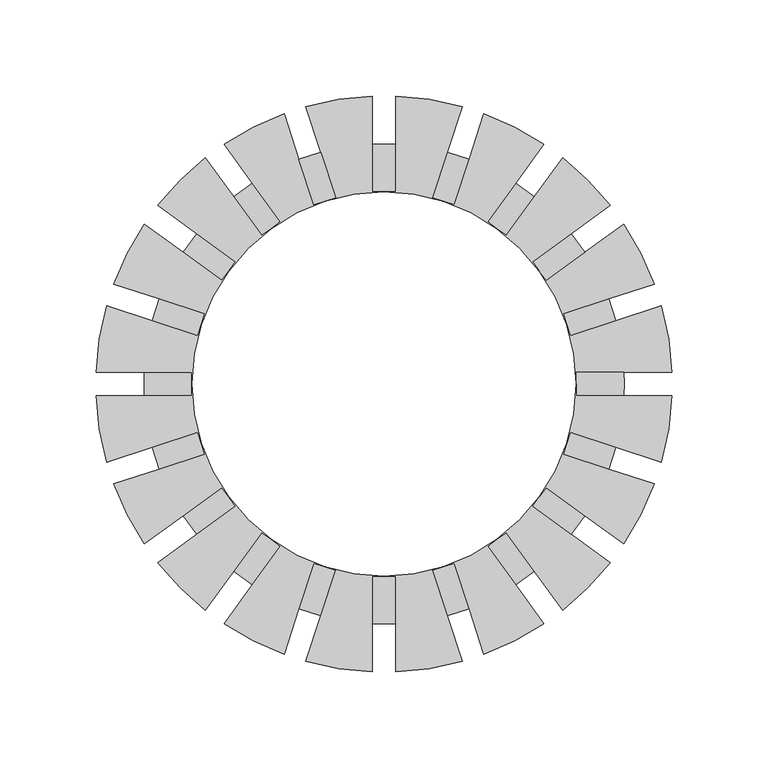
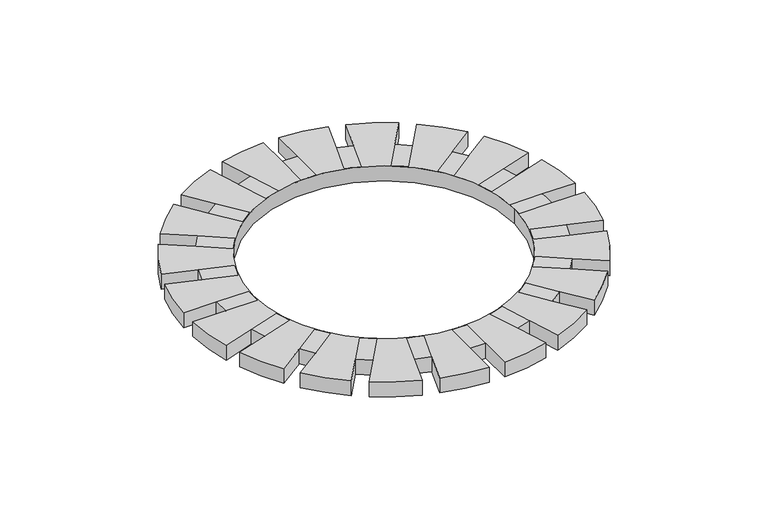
"""IFC4 building model written with IfcOpenShell, lengths in millimetres: proxy geometry, Drizzle 7.3dm."""

from ifc_helpers import new_model, si_unit, frame, origin, place, context, project, spatial, polyline, circle_curve, source, transform, mapped, element, save
from ifc_brep_helpers import plane_surface, cylinder_surface, revolved_surface, advanced_brep


def generic_models_2821e638(model_context):
    return source(origin(), model_context, "Body", "AdvancedBrep", [
        advanced_brep(
        [(18835.1497302, 668.1683381, -60.9371706), (18835.1497302, 668.1683381, -48.9371706), (18840.0442607, 637.2660781, -48.9371706), (18854.2485769, 609.3890612, -48.9371706), (18876.3708377, 587.2669055, -48.9371706), (18904.248158, 573.0626452, -48.9371706), (18935.1497302, 568.1683381, -48.9371706), (18966.0513113, 573.0626481, -48.9371706), (18993.9276166, 587.2661746, -48.9371706), (19016.0513453, 609.3896969, -48.9371706), (19030.2554173, 637.2667481, -48.9371706), (19035.1497302, 668.1683381, -48.9371706), (19035.1497302, 668.1683381, -60.9371706), (19030.2555312, 637.2670984, -60.9371706), (19016.0515856, 609.3900277, -60.9371706), (18993.9276078, 587.2661682, -60.9371706), (18966.0513038, 573.0626456, -60.9371706), (18935.1497302, 568.1683381, -60.9371706), (18904.2481653, 573.0626428, -60.9371706), (18876.3708352, 587.2669073, -60.9371706), (18854.2485802, 609.3890566, -60.9371706), (18840.0442616, 637.2660752, -60.9371706), (18840.0440328, 699.0698969, -60.9371706), (18854.2483311, 726.9472768, -60.9371706), (18876.3703919, 749.0694469, -60.9371706), (18904.2474395, 763.2737977, -60.9371706), (18935.1497302, 768.1683381, -60.9371706), (18966.0510914, 763.2740997, -60.9371706), (18993.9285706, 749.0698085, -60.9371706), (19016.0515821, 726.9466534, -60.9371706), (19030.2555298, 699.0695821, -60.9371706), (19030.2555303, 699.0695804, -48.9371706), (19016.0513457, 726.9469788, -48.9371706), (18993.92833, 749.0699833, -48.9371706), (18966.0512066, 763.2740622, -48.9371706), (18935.1497302, 768.1683381, -48.9371706), (18904.2474395, 763.2737977, -48.9371706), (18876.3703918, 749.0694468, -48.9371706), (18854.2483311, 726.9472769, -48.9371706), (18840.0439257, 699.0695672, -48.9371706), (18866.6153653, 772.7056082, -60.9371706), (18851.9066065, 792.9504778, -60.9371706), (18883.1279399, 808.8585416, -60.9371706), (18890.8607918, 785.05927, -60.9371706), (18898.5416924, 761.4198881, -60.9371706), (18881.2253067, 752.596749, -60.9371706), (18883.1279399, 808.8585416, -48.9371706), (18890.8607918, 785.05927, -48.9371706), (18902.2734701, 788.7674738, -48.9371706), (18902.2734701, 788.7674738, -60.9371706), (18894.5406182, 812.5667454, -60.9371706), (18894.5406182, 812.5667454, -48.9371706), (18851.9066065, 792.9504778, -48.9371706), (18909.9543706, 765.1280919, -60.9371706), (18909.9543706, 765.1280919, -48.9371706), (18898.5416924, 761.4198881, -48.9371706), (18856.9071614, 765.6521852, -48.9371706), (18866.6153653, 772.7056082, -48.9371706), (18856.9071614, 765.6521852, -60.9371706), (19013.3922983, 765.6521856, -60.9371706), (19028.101057, 785.8970553, -60.9371706), (19052.8784467, 761.1196657, -60.9371706), (19032.6335772, 746.4109069, -60.9371706), (19012.524718, 731.8009655, -60.9371706), (18998.782357, 745.5433263, -60.9371706), (18871.5171028, 745.5433259, -60.9371706), (18837.6658827, 746.4109063, -48.9371706), (18857.774742, 731.800965, -48.9371706), (18871.5171028, 745.5433259, -48.9371706), (18842.1984026, 785.8970547, -48.9371706), (18817.421013, 761.119665, -48.9371706), (18881.2253067, 752.596749, -48.9371706), (18817.421013, 761.119665, -60.9371706), (18842.1984026, 785.8970547, -60.9371706), (19052.8784467, 761.1196657, -48.9371706), (19032.6335772, 746.4109069, -48.9371706), (19039.6870002, 736.702703, -48.9371706), (19039.6870002, 736.702703, -60.9371706), (19059.9318698, 751.4114618, -60.9371706), (19059.9318698, 751.4114618, -48.9371706), (19028.101057, 785.8970553, -48.9371706), (18857.774742, 731.800965, -60.9371706), (18837.6658827, 746.4109063, -60.9371706), (19019.578141, 722.0927615, -60.9371706), (19013.3922983, 765.6521856, -48.9371706), (18998.782357, 745.5433263, -48.9371706), (19012.524718, 731.8009655, -48.9371706), (19019.578141, 722.0927615, -48.9371706), (19003.6840944, 772.7056086, -48.9371706), (19003.6840944, 772.7056086, -60.9371706), (18979.438665, 785.0592713, -60.9371706), (18987.1715162, 808.8585431, -60.9371706), (19018.392853, 792.9504783, -60.9371706), (18989.0741531, 752.5967493, -60.9371706), (18971.7577651, 761.4198892, -60.9371706), (18987.1715162, 808.8585431, -48.9371706), (19018.392853, 792.9504783, -48.9371706), (18979.438665, 785.0592713, -48.9371706), (18971.7577651, 761.4198892, -48.9371706), (18989.0741531, 752.5967493, -48.9371706), (18968.0259867, 788.7674748, -48.9371706), (18968.0259867, 788.7674748, -60.9371706), (18941.1497302, 793.0242551, -60.9371706), (18941.1497302, 818.0482901, -60.9371706), (18975.7588378, 812.5667466, -60.9371706), (18960.3450868, 765.1280927, -60.9371706), (18941.1497302, 768.1683381, -60.9371706), (18941.1497302, 818.0482901, -48.9371706), (18975.7588378, 812.5667466, -48.9371706), (18941.1497302, 793.0242551, -48.9371706), (18941.1497302, 768.1683381, -48.9371706), (18960.3450868, 765.1280927, -48.9371706), (18929.1497302, 793.0242551, -48.9371706), (18929.1497302, 793.0242551, -60.9371706), (18929.1497302, 818.0482901, -60.9371706), (18929.1497302, 768.1683381, -60.9371706), (18929.1497302, 818.0482901, -48.9371706), (18929.1497302, 768.1683381, -48.9371706), (18810.36759, 751.411461, -48.9371706), (18830.6124597, 736.7027024, -48.9371706), (18830.6124597, 736.7027024, -60.9371706), (18810.36759, 751.411461, -60.9371706), (18818.258797, 712.457273, -48.9371706), (18841.8981791, 704.7763731, -48.9371706), (18850.721319, 722.092761, -48.9371706), (18794.4595252, 720.1901242, -48.9371706), (18794.4595252, 720.1901242, -60.9371706), (18850.721319, 722.092761, -60.9371706), (18841.8981791, 704.7763731, -60.9371706), (18818.258797, 712.457273, -60.9371706), (19059.9318703, 584.9252153, -48.9371706), (19039.6870006, 599.6339739, -48.9371706), (19039.6870006, 599.6339739, -60.9371706), (19059.9318703, 584.9252153, -60.9371706), (19032.6335777, 589.9257699, -48.9371706), (19032.6335777, 589.9257699, -60.9371706), (19052.8784473, 575.2170113, -48.9371706), (19052.8784473, 575.2170113, -60.9371706), (19052.0406633, 623.8794033, -48.9371706), (19028.4012812, 631.5603031, -48.9371706), (19019.5781413, 614.2439152, -48.9371706), (19075.8399351, 616.1465521, -48.9371706), (19012.5247184, 604.5357113, -48.9371706), (19075.8399351, 616.1465521, -60.9371706), (19019.5781413, 614.2439152, -60.9371706), (19028.4012812, 631.5603031, -60.9371706), (19052.0406633, 623.8794033, -60.9371706), (19012.5247184, 604.5357113, -60.9371706), (19079.5481386, 627.5592305, -48.9371706), (19055.7488668, 635.2920816, -48.9371706), (19055.7488668, 635.2920816, -60.9371706), (19079.5481386, 627.5592305, -60.9371706), (19085.0296821, 662.1683381, -48.9371706), (19060.0056471, 662.1683381, -48.9371706), (19035.1497302, 662.1683381, -48.9371706), (19032.1094847, 642.9729815, -48.9371706), (19085.0296821, 662.1683381, -60.9371706), (19032.1094847, 642.9729815, -60.9371706), (19035.1497302, 662.1683381, -60.9371706), (19060.0056471, 662.1683381, -60.9371706), (19060.1497302, 668.1683381, -60.9371706), (19060.1497302, 668.1683381, -48.9371706), (19085.0296821, 674.1683381, -48.9371706), (19060.0056471, 674.1683381, -48.9371706), (19060.0056471, 674.1683381, -60.9371706), (19085.0296821, 674.1683381, -60.9371706), (19079.5481374, 708.7774501, -60.9371706), (19079.5481374, 708.7774501, -48.9371706), (19035.1497302, 674.1683381, -48.9371706), (19028.4012801, 704.7763759, -48.9371706), (19052.040662, 712.4572765, -48.9371706), (19075.8399336, 720.1901284, -48.9371706), (19035.1497302, 674.1683381, -60.9371706), (19032.109484, 693.3636977, -60.9371706), (19055.7488658, 701.0445982, -60.9371706), (19075.8399336, 720.1901284, -60.9371706), (19052.040662, 712.4572765, -60.9371706), (19055.7488658, 701.0445982, -48.9371706), (19032.109484, 693.3636977, -48.9371706), (19028.4012801, 704.7763759, -60.9371706), (18790.7513217, 708.7774458, -48.9371706), (18814.5505935, 701.0445946, -48.9371706), (18814.5505935, 701.0445946, -60.9371706), (18790.7513217, 708.7774458, -60.9371706), (18810.2938132, 674.1683381, -48.9371706), (18835.1497302, 674.1683381, -48.9371706), (18838.1899756, 693.3636948, -48.9371706), (18785.2697782, 674.1683381, -48.9371706), (18785.2697782, 674.1683381, -60.9371706), (18838.1899756, 693.3636948, -60.9371706), (18835.1497302, 674.1683381, -60.9371706), (18810.2938132, 674.1683381, -60.9371706), (18785.2697782, 662.1683381, -48.9371706), (18810.2938132, 662.1683381, -48.9371706), (18810.2938132, 662.1683381, -60.9371706), (18785.2697782, 662.1683381, -60.9371706), (18814.5505945, 635.292078, -48.9371706), (18838.1899764, 642.9729786, -48.9371706), (18835.1497302, 662.1683381, -48.9371706), (18790.7513229, 627.5592261, -48.9371706), (18790.7513229, 627.5592261, -60.9371706), (18835.1497302, 662.1683381, -60.9371706), (18838.1899764, 642.9729786, -60.9371706), (18814.5505945, 635.292078, -60.9371706), (18794.4595267, 616.1465479, -48.9371706), (18818.2587983, 623.8793998, -48.9371706), (18818.2587983, 623.8793998, -60.9371706), (18794.4595267, 616.1465479, -60.9371706), (18830.6124601, 599.6339733, -48.9371706), (18850.7213193, 614.2439147, -48.9371706), (18841.8981802, 631.5603004, -48.9371706), (18810.3675905, 584.9252145, -48.9371706), (18810.3675905, 584.9252145, -60.9371706), (18841.8981802, 631.5603004, -60.9371706), (18850.7213193, 614.2439147, -60.9371706), (18830.6124601, 599.6339733, -60.9371706), (18817.4210136, 575.2170106, -48.9371706), (18837.6658831, 589.9257693, -48.9371706), (18837.6658831, 589.9257693, -60.9371706), (18817.4210136, 575.2170106, -60.9371706), (18856.907162, 570.6844906, -48.9371706), (18871.5171033, 590.7933499, -48.9371706), (18857.7747423, 604.5357108, -48.9371706), (18842.1984033, 550.439621, -48.9371706), (18842.1984033, 550.439621, -60.9371706), (18857.7747423, 604.5357108, -60.9371706), (18871.5171033, 590.7933499, -60.9371706), (18856.907162, 570.6844906, -60.9371706), (18851.9066073, 543.386198, -48.9371706), (18866.6153659, 563.6310676, -48.9371706), (18866.6153659, 563.6310676, -60.9371706), (18851.9066073, 543.386198, -60.9371706), (18890.8607953, 551.277405, -48.9371706), (18898.5416952, 574.9167871, -48.9371706), (18881.2253073, 583.7399269, -48.9371706), (18883.1279441, 527.4781331, -48.9371706), (18883.1279441, 527.4781331, -60.9371706), (18881.2253073, 583.7399269, -60.9371706), (18898.5416952, 574.9167871, -60.9371706), (18890.8607953, 551.277405, -60.9371706), (18894.5406225, 523.7699296, -48.9371706), (18902.2734737, 547.5692015, -48.9371706), (18902.2734737, 547.5692015, -60.9371706), (18894.5406225, 523.7699296, -60.9371706), (18929.1497302, 543.3124212, -48.9371706), (18929.1497302, 568.1683381, -48.9371706), (18909.9543735, 571.2085836, -48.9371706), (18929.1497302, 518.2883862, -48.9371706), (18929.1497302, 518.2883862, -60.9371706), (18909.9543735, 571.2085836, -60.9371706), (18929.1497302, 568.1683381, -60.9371706), (18929.1497302, 543.3124212, -60.9371706), (18941.1497302, 518.2883862, -48.9371706), (18941.1497302, 543.3124212, -48.9371706), (18941.1497302, 543.3124212, -60.9371706), (18941.1497302, 518.2883862, -60.9371706), (18968.0259903, 547.5692025, -48.9371706), (18960.3450897, 571.2085843, -48.9371706), (18941.1497302, 568.1683381, -48.9371706), (18975.7588422, 523.7699309, -48.9371706), (18975.7588422, 523.7699309, -60.9371706), (18941.1497302, 568.1683381, -60.9371706), (18960.3450897, 571.2085843, -60.9371706), (18968.0259903, 547.5692025, -60.9371706), (18987.1715204, 527.4781347, -48.9371706), (18979.4386685, 551.2774063, -48.9371706), (18979.4386685, 551.2774063, -60.9371706), (18987.1715204, 527.4781347, -60.9371706), (19003.684095, 563.6310681, -48.9371706), (18989.0741536, 583.7399273, -48.9371706), (18971.7577679, 574.9167882, -48.9371706), (19018.3928538, 543.3861985, -48.9371706), (19018.3928538, 543.3861985, -60.9371706), (18971.7577679, 574.9167882, -60.9371706), (18989.0741536, 583.7399273, -60.9371706), (19003.684095, 563.6310681, -60.9371706), (19028.1010577, 550.4396216, -48.9371706), (19013.3922989, 570.6844911, -48.9371706), (19013.3922989, 570.6844911, -60.9371706), (19028.1010577, 550.4396216, -60.9371706), (18998.7823575, 590.7933503, -48.9371706), (18998.7823575, 590.7933503, -60.9371706)],
        [
            (0, 1),
            (1, 2, circle_curve(frame((18935.1497302, 668.1683381, -48.9371706), z_axis=(0.0, 0.0, 1.0), x_axis=(-1.0, 0.0, 0.0)), 100.0)),
            (2, 3, circle_curve(frame((18935.1497302, 668.1683381, -48.9371706), z_axis=(0.0, 0.0, 1.0), x_axis=(-1.0, 0.0, 0.0)), 100.0)),
            (3, 4, circle_curve(frame((18935.1497302, 668.1683381, -48.9371706), z_axis=(0.0, 0.0, 1.0), x_axis=(-1.0, 0.0, 0.0)), 100.0)),
            (4, 5, circle_curve(frame((18935.1497302, 668.1683381, -48.9371706), z_axis=(0.0, 0.0, 1.0), x_axis=(-1.0, 0.0, 0.0)), 100.0)),
            (5, 6, circle_curve(frame((18935.1497302, 668.1683381, -48.9371706), z_axis=(0.0, 0.0, 1.0), x_axis=(-1.0, 0.0, 0.0)), 100.0)),
            (6, 7, circle_curve(frame((18935.1497302, 668.1683381, -48.9371706), z_axis=(0.0, 0.0, 1.0), x_axis=(-1.0, 0.0, 0.0)), 100.0)),
            (7, 8, circle_curve(frame((18935.1497302, 668.1683381, -48.9371706), z_axis=(0.0, 0.0, 1.0), x_axis=(-1.0, 0.0, 0.0)), 100.0)),
            (8, 9, circle_curve(frame((18935.1497302, 668.1683381, -48.9371706), z_axis=(0.0, 0.0, 1.0), x_axis=(-1.0, 0.0, 0.0)), 100.0)),
            (9, 10, circle_curve(frame((18935.1497302, 668.1683381, -48.9371706), z_axis=(0.0, 0.0, 1.0), x_axis=(-1.0, 0.0, 0.0)), 100.0)),
            (10, 11, circle_curve(frame((18935.1497302, 668.1683381, -48.9371706), z_axis=(0.0, 0.0, 1.0), x_axis=(-1.0, 0.0, 0.0)), 100.0)),
            (11, 12),
            (12, 13, circle_curve(frame((18935.1497302, 668.1683381, -60.9371706), z_axis=(0.0, 0.0, -1.0), x_axis=(-1.0, 0.0, 0.0)), 100.0)),
            (13, 14, circle_curve(frame((18935.1497302, 668.1683381, -60.9371706), z_axis=(0.0, 0.0, -1.0), x_axis=(-1.0, 0.0, 0.0)), 100.0)),
            (14, 15, circle_curve(frame((18935.1497302, 668.1683381, -60.9371706), z_axis=(0.0, 0.0, -1.0), x_axis=(-1.0, 0.0, 0.0)), 100.0)),
            (15, 16, circle_curve(frame((18935.1497302, 668.1683381, -60.9371706), z_axis=(0.0, 0.0, -1.0), x_axis=(-1.0, 0.0, 0.0)), 100.0)),
            (16, 17, circle_curve(frame((18935.1497302, 668.1683381, -60.9371706), z_axis=(0.0, 0.0, -1.0), x_axis=(-1.0, 0.0, 0.0)), 100.0)),
            (17, 18, circle_curve(frame((18935.1497302, 668.1683381, -60.9371706), z_axis=(0.0, 0.0, -1.0), x_axis=(-1.0, 0.0, 0.0)), 100.0)),
            (18, 19, circle_curve(frame((18935.1497302, 668.1683381, -60.9371706), z_axis=(0.0, 0.0, -1.0), x_axis=(-1.0, 0.0, 0.0)), 100.0)),
            (19, 20, circle_curve(frame((18935.1497302, 668.1683381, -60.9371706), z_axis=(0.0, 0.0, -1.0), x_axis=(-1.0, 0.0, 0.0)), 100.0)),
            (20, 21, circle_curve(frame((18935.1497302, 668.1683381, -60.9371706), z_axis=(0.0, 0.0, -1.0), x_axis=(-1.0, 0.0, 0.0)), 100.0)),
            (21, 0, circle_curve(frame((18935.1497302, 668.1683381, -60.9371706), z_axis=(0.0, 0.0, -1.0), x_axis=(-1.0, 0.0, 0.0)), 100.0)),
            (0, 22, circle_curve(frame((18935.1497302, 668.1683381, -60.9371706), z_axis=(0.0, 0.0, -1.0), x_axis=(-1.0, 0.0, 0.0)), 100.0)),
            (22, 23, circle_curve(frame((18935.1497302, 668.1683381, -60.9371706), z_axis=(0.0, 0.0, -1.0), x_axis=(-1.0, 0.0, 0.0)), 100.0)),
            (23, 24, circle_curve(frame((18935.1497302, 668.1683381, -60.9371706), z_axis=(0.0, 0.0, -1.0), x_axis=(-1.0, 0.0, 0.0)), 100.0)),
            (24, 25, circle_curve(frame((18935.1497302, 668.1683381, -60.9371706), z_axis=(0.0, 0.0, -1.0), x_axis=(-1.0, 0.0, 0.0)), 100.0)),
            (25, 26, circle_curve(frame((18935.1497302, 668.1683381, -60.9371706), z_axis=(0.0, 0.0, -1.0), x_axis=(-1.0, 0.0, 0.0)), 100.0)),
            (26, 27, circle_curve(frame((18935.1497302, 668.1683381, -60.9371706), z_axis=(0.0, 0.0, -1.0), x_axis=(-1.0, 0.0, 0.0)), 100.0)),
            (27, 28, circle_curve(frame((18935.1497302, 668.1683381, -60.9371706), z_axis=(0.0, 0.0, -1.0), x_axis=(-1.0, 0.0, 0.0)), 100.0)),
            (28, 29, circle_curve(frame((18935.1497302, 668.1683381, -60.9371706), z_axis=(0.0, 0.0, -1.0), x_axis=(-1.0, 0.0, 0.0)), 100.0)),
            (29, 30, circle_curve(frame((18935.1497302, 668.1683381, -60.9371706), z_axis=(0.0, 0.0, -1.0), x_axis=(-1.0, 0.0, 0.0)), 100.0)),
            (30, 12, circle_curve(frame((18935.1497302, 668.1683381, -60.9371706), z_axis=(0.0, 0.0, -1.0), x_axis=(-1.0, 0.0, 0.0)), 100.0)),
            (11, 31, circle_curve(frame((18935.1497302, 668.1683381, -48.9371706), z_axis=(0.0, 0.0, 1.0), x_axis=(-1.0, 0.0, 0.0)), 100.0)),
            (31, 32, circle_curve(frame((18935.1497302, 668.1683381, -48.9371706), z_axis=(0.0, 0.0, 1.0), x_axis=(-1.0, 0.0, 0.0)), 100.0)),
            (32, 33, circle_curve(frame((18935.1497302, 668.1683381, -48.9371706), z_axis=(0.0, 0.0, 1.0), x_axis=(-1.0, 0.0, 0.0)), 100.0)),
            (33, 34, circle_curve(frame((18935.1497302, 668.1683381, -48.9371706), z_axis=(0.0, 0.0, 1.0), x_axis=(-1.0, 0.0, 0.0)), 100.0)),
            (34, 35, circle_curve(frame((18935.1497302, 668.1683381, -48.9371706), z_axis=(0.0, 0.0, 1.0), x_axis=(-1.0, 0.0, 0.0)), 100.0)),
            (35, 36, circle_curve(frame((18935.1497302, 668.1683381, -48.9371706), z_axis=(0.0, 0.0, 1.0), x_axis=(-1.0, 0.0, 0.0)), 100.0)),
            (36, 37, circle_curve(frame((18935.1497302, 668.1683381, -48.9371706), z_axis=(0.0, 0.0, 1.0), x_axis=(-1.0, 0.0, 0.0)), 100.0)),
            (37, 38, circle_curve(frame((18935.1497302, 668.1683381, -48.9371706), z_axis=(0.0, 0.0, 1.0), x_axis=(-1.0, 0.0, 0.0)), 100.0)),
            (38, 39, circle_curve(frame((18935.1497302, 668.1683381, -48.9371706), z_axis=(0.0, 0.0, 1.0), x_axis=(-1.0, 0.0, 0.0)), 100.0)),
            (39, 1, circle_curve(frame((18935.1497302, 668.1683381, -48.9371706), z_axis=(0.0, 0.0, 1.0), x_axis=(-1.0, 0.0, 0.0)), 100.0)),
            (40, 41),
            (41, 42, circle_curve(frame((18935.1497302, 668.1683381, -60.9371706), z_axis=(0.0, 0.0, -1.0), x_axis=(-1.0, 0.0, 0.0)), 150.0)),
            (42, 43),
            (43, 44),
            (44, 25),
            (24, 45),
            (45, 40),
            (42, 46),
            (46, 47),
            (47, 43),
            (47, 48, circle_curve(frame((18935.1497302, 668.1683381, -48.9371706), z_axis=(0.0, 0.0, -1.0), x_axis=(-1.0, 0.0, 0.0)), 125.0)),
            (48, 49),
            (49, 43, circle_curve(frame((18935.1497302, 668.1683381, -60.9371706), z_axis=(0.0, 0.0, 1.0), x_axis=(-1.0, 0.0, 0.0)), 125.0)),
            (50, 49),
            (48, 51),
            (51, 50),
            (41, 52),
            (52, 46, circle_curve(frame((18935.1497302, 668.1683381, -48.9371706), z_axis=(0.0, 0.0, -1.0), x_axis=(-1.0, 0.0, 0.0)), 150.0)),
            (49, 53),
            (53, 25),
            (54, 48),
            (47, 55),
            (55, 36),
            (36, 54),
            (56, 57, circle_curve(frame((18935.1497302, 668.1683381, -48.9371706), z_axis=(0.0, 0.0, -1.0), x_axis=(-1.0, 0.0, 0.0)), 125.0)),
            (57, 40),
            (40, 58, circle_curve(frame((18935.1497302, 668.1683381, -60.9371706), z_axis=(0.0, 0.0, 1.0), x_axis=(-1.0, 0.0, 0.0)), 125.0)),
            (58, 56),
            (59, 60),
            (60, 61, circle_curve(frame((18935.1497302, 668.1683381, -60.9371706), z_axis=(0.0, 0.0, -1.0), x_axis=(-1.0, 0.0, 0.0)), 150.0)),
            (61, 62),
            (62, 63),
            (63, 29),
            (28, 64),
            (64, 59),
            (24, 65),
            (65, 58),
            (66, 67),
            (67, 38),
            (37, 68),
            (68, 56),
            (56, 69),
            (69, 70, circle_curve(frame((18935.1497302, 668.1683381, -48.9371706), z_axis=(0.0, 0.0, 1.0), x_axis=(-1.0, 0.0, 0.0)), 150.0)),
            (70, 66),
            (71, 37),
            (52, 57),
            (57, 71),
            (72, 70),
            (69, 73),
            (73, 72, circle_curve(frame((18935.1497302, 668.1683381, -60.9371706), z_axis=(0.0, 0.0, 1.0), x_axis=(-1.0, 0.0, 0.0)), 150.0)),
            (58, 73),
            (61, 74),
            (74, 75),
            (75, 62),
            (75, 76, circle_curve(frame((18935.1497302, 668.1683381, -48.9371706), z_axis=(0.0, 0.0, -1.0), x_axis=(-1.0, 0.0, 0.0)), 125.0)),
            (76, 77),
            (77, 62, circle_curve(frame((18935.1497302, 668.1683381, -60.9371706), z_axis=(0.0, 0.0, 1.0), x_axis=(-1.0, 0.0, 0.0)), 125.0)),
            (78, 77),
            (76, 79),
            (79, 78),
            (60, 80),
            (80, 74, circle_curve(frame((18935.1497302, 668.1683381, -48.9371706), z_axis=(0.0, 0.0, -1.0), x_axis=(-1.0, 0.0, 0.0)), 150.0)),
            (23, 81),
            (81, 82),
            (82, 72),
            (77, 83),
            (83, 29),
            (80, 84),
            (84, 85),
            (85, 33),
            (32, 86),
            (86, 75),
            (87, 76),
            (32, 87),
            (88, 84, circle_curve(frame((18935.1497302, 668.1683381, -48.9371706), z_axis=(0.0, 0.0, -1.0), x_axis=(-1.0, 0.0, 0.0)), 125.0)),
            (84, 59),
            (59, 89, circle_curve(frame((18935.1497302, 668.1683381, -60.9371706), z_axis=(0.0, 0.0, 1.0), x_axis=(-1.0, 0.0, 0.0)), 125.0)),
            (89, 88),
            (90, 91),
            (91, 92, circle_curve(frame((18935.1497302, 668.1683381, -60.9371706), z_axis=(0.0, 0.0, -1.0), x_axis=(-1.0, 0.0, 0.0)), 150.0)),
            (92, 89),
            (89, 93),
            (93, 28),
            (27, 94),
            (94, 90),
            (91, 95),
            (95, 96, circle_curve(frame((18935.1497302, 668.1683381, -48.9371706), z_axis=(0.0, 0.0, -1.0), x_axis=(-1.0, 0.0, 0.0)), 150.0)),
            (96, 92),
            (95, 97),
            (97, 98),
            (98, 34),
            (33, 99),
            (99, 88),
            (88, 96),
            (100, 97, circle_curve(frame((18935.1497302, 668.1683381, -48.9371706), z_axis=(0.0, 0.0, -1.0), x_axis=(-1.0, 0.0, 0.0)), 125.0)),
            (97, 90),
            (90, 101, circle_curve(frame((18935.1497302, 668.1683381, -60.9371706), z_axis=(0.0, 0.0, 1.0), x_axis=(-1.0, 0.0, 0.0)), 125.0)),
            (101, 100),
            (102, 103),
            (103, 104, circle_curve(frame((18935.1497302, 668.1683381, -60.9371706), z_axis=(0.0, 0.0, -1.0), x_axis=(-1.0, 0.0, 0.0)), 150.0)),
            (104, 101),
            (101, 105),
            (105, 27),
            (26, 106),
            (106, 102),
            (103, 107),
            (107, 108, circle_curve(frame((18935.1497302, 668.1683381, -48.9371706), z_axis=(0.0, 0.0, -1.0), x_axis=(-1.0, 0.0, 0.0)), 150.0)),
            (108, 104),
            (107, 109),
            (109, 110),
            (110, 35),
            (34, 111),
            (111, 100),
            (100, 108),
            (112, 109, circle_curve(frame((18935.1497302, 668.1683381, -48.9371706), z_axis=(0.0, 0.0, -1.0), x_axis=(-1.0, 0.0, 0.0)), 125.0)),
            (109, 102),
            (102, 113, circle_curve(frame((18935.1497302, 668.1683381, -60.9371706), z_axis=(0.0, 0.0, 1.0), x_axis=(-1.0, 0.0, 0.0)), 125.0)),
            (113, 112),
            (50, 114, circle_curve(frame((18935.1497302, 668.1683381, -60.9371706), z_axis=(0.0, 0.0, -1.0), x_axis=(-1.0, 0.0, 0.0)), 150.0)),
            (114, 113),
            (113, 115),
            (115, 26),
            (51, 116, circle_curve(frame((18935.1497302, 668.1683381, -48.9371706), z_axis=(0.0, 0.0, -1.0), x_axis=(-1.0, 0.0, 0.0)), 150.0)),
            (116, 114),
            (35, 117),
            (117, 112),
            (112, 116),
            (118, 119),
            (119, 120),
            (120, 121),
            (121, 118),
            (119, 66, circle_curve(frame((18935.1497302, 668.1683381, -48.9371706), z_axis=(0.0, 0.0, -1.0), x_axis=(-1.0, 0.0, 0.0)), 125.0)),
            (66, 82),
            (82, 120, circle_curve(frame((18935.1497302, 668.1683381, -60.9371706), z_axis=(0.0, 0.0, 1.0), x_axis=(-1.0, 0.0, 0.0)), 125.0)),
            (122, 123),
            (123, 39),
            (38, 124),
            (124, 119),
            (118, 125, circle_curve(frame((18935.1497302, 668.1683381, -48.9371706), z_axis=(0.0, 0.0, 1.0), x_axis=(-1.0, 0.0, 0.0)), 150.0)),
            (125, 122),
            (126, 125),
            (121, 126, circle_curve(frame((18935.1497302, 668.1683381, -60.9371706), z_axis=(0.0, 0.0, 1.0), x_axis=(-1.0, 0.0, 0.0)), 150.0)),
            (120, 127),
            (127, 23),
            (22, 128),
            (128, 129),
            (129, 126),
            (130, 131),
            (131, 132),
            (132, 133),
            (133, 130),
            (131, 134, circle_curve(frame((18935.1497302, 668.1683381, -48.9371706), z_axis=(0.0, 0.0, -1.0), x_axis=(-1.0, 0.0, 0.0)), 125.0)),
            (134, 135),
            (135, 132, circle_curve(frame((18935.1497302, 668.1683381, -60.9371706), z_axis=(0.0, 0.0, 1.0), x_axis=(-1.0, 0.0, 0.0)), 125.0)),
            (136, 137),
            (137, 135),
            (134, 136),
            (138, 139),
            (139, 10),
            (9, 140),
            (140, 131),
            (130, 141, circle_curve(frame((18935.1497302, 668.1683381, -48.9371706), z_axis=(0.0, 0.0, 1.0), x_axis=(-1.0, 0.0, 0.0)), 150.0)),
            (141, 138),
            (9, 142),
            (142, 134),
            (143, 141),
            (133, 143, circle_curve(frame((18935.1497302, 668.1683381, -60.9371706), z_axis=(0.0, 0.0, 1.0), x_axis=(-1.0, 0.0, 0.0)), 150.0)),
            (132, 144),
            (144, 14),
            (13, 145),
            (145, 146),
            (146, 143),
            (147, 14),
            (135, 147),
            (148, 149),
            (149, 150),
            (150, 151),
            (151, 148),
            (149, 138, circle_curve(frame((18935.1497302, 668.1683381, -48.9371706), z_axis=(0.0, 0.0, -1.0), x_axis=(-1.0, 0.0, 0.0)), 125.0)),
            (138, 146),
            (146, 150, circle_curve(frame((18935.1497302, 668.1683381, -60.9371706), z_axis=(0.0, 0.0, 1.0), x_axis=(-1.0, 0.0, 0.0)), 125.0)),
            (152, 153),
            (153, 154),
            (154, 11),
            (10, 155),
            (155, 149),
            (148, 152, circle_curve(frame((18935.1497302, 668.1683381, -48.9371706), z_axis=(0.0, 0.0, 1.0), x_axis=(-1.0, 0.0, 0.0)), 150.0)),
            (156, 152),
            (151, 156, circle_curve(frame((18935.1497302, 668.1683381, -60.9371706), z_axis=(0.0, 0.0, 1.0), x_axis=(-1.0, 0.0, 0.0)), 150.0)),
            (150, 157),
            (157, 13),
            (12, 158),
            (158, 159),
            (159, 156),
            (153, 159),
            (159, 160, circle_curve(frame((18935.1497302, 668.1683381, -60.9371706), z_axis=(0.0, 0.0, 1.0), x_axis=(-1.0, 0.0, 0.0)), 125.0)),
            (160, 161),
            (161, 153, circle_curve(frame((18935.1497302, 668.1683381, -48.9371706), z_axis=(0.0, 0.0, -1.0), x_axis=(-1.0, 0.0, 0.0)), 125.0)),
            (162, 163),
            (163, 164),
            (164, 165),
            (165, 162),
            (163, 161, circle_curve(frame((18935.1497302, 668.1683381, -48.9371706), z_axis=(0.0, 0.0, -1.0), x_axis=(-1.0, 0.0, 0.0)), 125.0)),
            (160, 164, circle_curve(frame((18935.1497302, 668.1683381, -60.9371706), z_axis=(0.0, 0.0, 1.0), x_axis=(-1.0, 0.0, 0.0)), 125.0)),
            (166, 167),
            (167, 162, circle_curve(frame((18935.1497302, 668.1683381, -48.9371706), z_axis=(0.0, 0.0, -1.0), x_axis=(-1.0, 0.0, 0.0)), 150.0)),
            (165, 166, circle_curve(frame((18935.1497302, 668.1683381, -60.9371706), z_axis=(0.0, 0.0, 1.0), x_axis=(-1.0, 0.0, 0.0)), 150.0)),
            (163, 168),
            (168, 11),
            (31, 169),
            (169, 170),
            (170, 171),
            (171, 79, circle_curve(frame((18935.1497302, 668.1683381, -48.9371706), z_axis=(0.0, 0.0, 1.0), x_axis=(-1.0, 0.0, 0.0)), 150.0)),
            (164, 172),
            (172, 12),
            (30, 173),
            (173, 174),
            (174, 166),
            (175, 171),
            (170, 176),
            (176, 175),
            (170, 177, circle_curve(frame((18935.1497302, 668.1683381, -48.9371706), z_axis=(0.0, 0.0, -1.0), x_axis=(-1.0, 0.0, 0.0)), 125.0)),
            (177, 174),
            (174, 176, circle_curve(frame((18935.1497302, 668.1683381, -60.9371706), z_axis=(0.0, 0.0, 1.0), x_axis=(-1.0, 0.0, 0.0)), 125.0)),
            (177, 167),
            (175, 78, circle_curve(frame((18935.1497302, 668.1683381, -60.9371706), z_axis=(0.0, 0.0, 1.0), x_axis=(-1.0, 0.0, 0.0)), 150.0)),
            (177, 178),
            (178, 31),
            (176, 179),
            (179, 30),
            (180, 181),
            (181, 182),
            (182, 183),
            (183, 180),
            (181, 122, circle_curve(frame((18935.1497302, 668.1683381, -48.9371706), z_axis=(0.0, 0.0, -1.0), x_axis=(-1.0, 0.0, 0.0)), 125.0)),
            (122, 129),
            (129, 182, circle_curve(frame((18935.1497302, 668.1683381, -60.9371706), z_axis=(0.0, 0.0, 1.0), x_axis=(-1.0, 0.0, 0.0)), 125.0)),
            (184, 185),
            (185, 1),
            (39, 186),
            (186, 181),
            (180, 187, circle_curve(frame((18935.1497302, 668.1683381, -48.9371706), z_axis=(0.0, 0.0, 1.0), x_axis=(-1.0, 0.0, 0.0)), 150.0)),
            (187, 184),
            (188, 187),
            (183, 188, circle_curve(frame((18935.1497302, 668.1683381, -60.9371706), z_axis=(0.0, 0.0, 1.0), x_axis=(-1.0, 0.0, 0.0)), 150.0)),
            (182, 189),
            (189, 22),
            (0, 190),
            (190, 191),
            (191, 188),
            (192, 193),
            (193, 194),
            (194, 195),
            (195, 192),
            (193, 184, circle_curve(frame((18935.1497302, 668.1683381, -48.9371706), z_axis=(0.0, 0.0, -1.0), x_axis=(-1.0, 0.0, 0.0)), 125.0)),
            (184, 191),
            (191, 194, circle_curve(frame((18935.1497302, 668.1683381, -60.9371706), z_axis=(0.0, 0.0, 1.0), x_axis=(-1.0, 0.0, 0.0)), 125.0)),
            (196, 197),
            (197, 2),
            (1, 198),
            (198, 193),
            (192, 199, circle_curve(frame((18935.1497302, 668.1683381, -48.9371706), z_axis=(0.0, 0.0, 1.0), x_axis=(-1.0, 0.0, 0.0)), 150.0)),
            (199, 196),
            (200, 199),
            (195, 200, circle_curve(frame((18935.1497302, 668.1683381, -60.9371706), z_axis=(0.0, 0.0, 1.0), x_axis=(-1.0, 0.0, 0.0)), 150.0)),
            (194, 201),
            (201, 0),
            (21, 202),
            (202, 203),
            (203, 200),
            (204, 205),
            (205, 206),
            (206, 207),
            (207, 204),
            (205, 196, circle_curve(frame((18935.1497302, 668.1683381, -48.9371706), z_axis=(0.0, 0.0, -1.0), x_axis=(-1.0, 0.0, 0.0)), 125.0)),
            (196, 203),
            (203, 206, circle_curve(frame((18935.1497302, 668.1683381, -60.9371706), z_axis=(0.0, 0.0, 1.0), x_axis=(-1.0, 0.0, 0.0)), 125.0)),
            (208, 209),
            (209, 3),
            (2, 210),
            (210, 205),
            (204, 211, circle_curve(frame((18935.1497302, 668.1683381, -48.9371706), z_axis=(0.0, 0.0, 1.0), x_axis=(-1.0, 0.0, 0.0)), 150.0)),
            (211, 208),
            (212, 211),
            (207, 212, circle_curve(frame((18935.1497302, 668.1683381, -60.9371706), z_axis=(0.0, 0.0, 1.0), x_axis=(-1.0, 0.0, 0.0)), 150.0)),
            (206, 213),
            (213, 21),
            (20, 214),
            (214, 215),
            (215, 212),
            (216, 217),
            (217, 218),
            (218, 219),
            (219, 216),
            (217, 208, circle_curve(frame((18935.1497302, 668.1683381, -48.9371706), z_axis=(0.0, 0.0, -1.0), x_axis=(-1.0, 0.0, 0.0)), 125.0)),
            (208, 215),
            (215, 218, circle_curve(frame((18935.1497302, 668.1683381, -60.9371706), z_axis=(0.0, 0.0, 1.0), x_axis=(-1.0, 0.0, 0.0)), 125.0)),
            (220, 221),
            (221, 4),
            (3, 222),
            (222, 217),
            (216, 223, circle_curve(frame((18935.1497302, 668.1683381, -48.9371706), z_axis=(0.0, 0.0, 1.0), x_axis=(-1.0, 0.0, 0.0)), 150.0)),
            (223, 220),
            (224, 223),
            (219, 224, circle_curve(frame((18935.1497302, 668.1683381, -60.9371706), z_axis=(0.0, 0.0, 1.0), x_axis=(-1.0, 0.0, 0.0)), 150.0)),
            (218, 225),
            (225, 20),
            (19, 226),
            (226, 227),
            (227, 224),
            (228, 229),
            (229, 230),
            (230, 231),
            (231, 228),
            (229, 220, circle_curve(frame((18935.1497302, 668.1683381, -48.9371706), z_axis=(0.0, 0.0, -1.0), x_axis=(-1.0, 0.0, 0.0)), 125.0)),
            (220, 227),
            (227, 230, circle_curve(frame((18935.1497302, 668.1683381, -60.9371706), z_axis=(0.0, 0.0, 1.0), x_axis=(-1.0, 0.0, 0.0)), 125.0)),
            (232, 233),
            (233, 5),
            (4, 234),
            (234, 229),
            (228, 235, circle_curve(frame((18935.1497302, 668.1683381, -48.9371706), z_axis=(0.0, 0.0, 1.0), x_axis=(-1.0, 0.0, 0.0)), 150.0)),
            (235, 232),
            (236, 235),
            (231, 236, circle_curve(frame((18935.1497302, 668.1683381, -60.9371706), z_axis=(0.0, 0.0, 1.0), x_axis=(-1.0, 0.0, 0.0)), 150.0)),
            (230, 237),
            (237, 19),
            (18, 238),
            (238, 239),
            (239, 236),
            (240, 241),
            (241, 242),
            (242, 243),
            (243, 240),
            (241, 232, circle_curve(frame((18935.1497302, 668.1683381, -48.9371706), z_axis=(0.0, 0.0, -1.0), x_axis=(-1.0, 0.0, 0.0)), 125.0)),
            (232, 239),
            (239, 242, circle_curve(frame((18935.1497302, 668.1683381, -60.9371706), z_axis=(0.0, 0.0, 1.0), x_axis=(-1.0, 0.0, 0.0)), 125.0)),
            (244, 245),
            (245, 6),
            (5, 246),
            (246, 241),
            (240, 247, circle_curve(frame((18935.1497302, 668.1683381, -48.9371706), z_axis=(0.0, 0.0, 1.0), x_axis=(-1.0, 0.0, 0.0)), 150.0)),
            (247, 244),
            (248, 247),
            (243, 248, circle_curve(frame((18935.1497302, 668.1683381, -60.9371706), z_axis=(0.0, 0.0, 1.0), x_axis=(-1.0, 0.0, 0.0)), 150.0)),
            (242, 249),
            (249, 18),
            (17, 250),
            (250, 251),
            (251, 248),
            (252, 253),
            (253, 254),
            (254, 255),
            (255, 252),
            (253, 244, circle_curve(frame((18935.1497302, 668.1683381, -48.9371706), z_axis=(0.0, 0.0, -1.0), x_axis=(-1.0, 0.0, 0.0)), 125.0)),
            (244, 251),
            (251, 254, circle_curve(frame((18935.1497302, 668.1683381, -60.9371706), z_axis=(0.0, 0.0, 1.0), x_axis=(-1.0, 0.0, 0.0)), 125.0)),
            (256, 257),
            (257, 7),
            (6, 258),
            (258, 253),
            (252, 259, circle_curve(frame((18935.1497302, 668.1683381, -48.9371706), z_axis=(0.0, 0.0, 1.0), x_axis=(-1.0, 0.0, 0.0)), 150.0)),
            (259, 256),
            (260, 259),
            (255, 260, circle_curve(frame((18935.1497302, 668.1683381, -60.9371706), z_axis=(0.0, 0.0, 1.0), x_axis=(-1.0, 0.0, 0.0)), 150.0)),
            (254, 261),
            (261, 17),
            (16, 262),
            (262, 263),
            (263, 260),
            (264, 265),
            (265, 266),
            (266, 267),
            (267, 264),
            (265, 256, circle_curve(frame((18935.1497302, 668.1683381, -48.9371706), z_axis=(0.0, 0.0, -1.0), x_axis=(-1.0, 0.0, 0.0)), 125.0)),
            (256, 263),
            (263, 266, circle_curve(frame((18935.1497302, 668.1683381, -60.9371706), z_axis=(0.0, 0.0, 1.0), x_axis=(-1.0, 0.0, 0.0)), 125.0)),
            (268, 269),
            (269, 8),
            (7, 270),
            (270, 265),
            (264, 271, circle_curve(frame((18935.1497302, 668.1683381, -48.9371706), z_axis=(0.0, 0.0, 1.0), x_axis=(-1.0, 0.0, 0.0)), 150.0)),
            (271, 268),
            (272, 271),
            (267, 272, circle_curve(frame((18935.1497302, 668.1683381, -60.9371706), z_axis=(0.0, 0.0, 1.0), x_axis=(-1.0, 0.0, 0.0)), 150.0)),
            (266, 273),
            (273, 16),
            (15, 274),
            (274, 275),
            (275, 272),
            (276, 277),
            (277, 278),
            (278, 279),
            (279, 276),
            (277, 268, circle_curve(frame((18935.1497302, 668.1683381, -48.9371706), z_axis=(0.0, 0.0, -1.0), x_axis=(-1.0, 0.0, 0.0)), 125.0)),
            (268, 275),
            (275, 278, circle_curve(frame((18935.1497302, 668.1683381, -60.9371706), z_axis=(0.0, 0.0, 1.0), x_axis=(-1.0, 0.0, 0.0)), 125.0)),
            (8, 280),
            (280, 277),
            (276, 136, circle_curve(frame((18935.1497302, 668.1683381, -48.9371706), z_axis=(0.0, 0.0, 1.0), x_axis=(-1.0, 0.0, 0.0)), 150.0)),
            (279, 137, circle_curve(frame((18935.1497302, 668.1683381, -60.9371706), z_axis=(0.0, 0.0, 1.0), x_axis=(-1.0, 0.0, 0.0)), 150.0)),
            (278, 281),
            (281, 15),
        ],
        [
            revolved_surface(polyline([(18835.1497302, 668.1683381, -48.9371706), (18835.1497302, 668.1683381, -60.9371706)]), (18935.1497302, 668.1683381, -60.9371706), (0.0, 0.0, 1.0)),
            plane_surface(frame((19535.1497302, 668.1683381, -60.9371706), z_axis=(0.0, 0.0, -1.0), x_axis=(-1.0, 0.0, 0.0))),
            plane_surface(frame((18898.5416924, 761.4198881, -108.9371706), z_axis=(0.9510565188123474, 0.3090169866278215, 0.0), x_axis=(0.0, 0.0, -1.0))),
            cylinder_surface(frame((18935.1497302, 668.1683381, -48.9371706), z_axis=(0.0, 0.0, 1.0), x_axis=(-1.0, 0.0, 0.0)), 125.0),
            plane_surface(frame((18909.9543706, 765.1280919, -108.9371706), z_axis=(-0.9510565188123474, -0.3090169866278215, 0.0), x_axis=(0.0, 0.0, 1.0))),
            cylinder_surface(frame((18935.1497302, 668.1683381, -60.9371706), z_axis=(0.0, 0.0, -1.0), x_axis=(-1.0, 0.0, 0.0)), 150.0),
            plane_surface(frame((19535.1497302, 668.1683381, -48.9371706), z_axis=(0.0, 0.0, 1.0), x_axis=(1.0, 0.0, 0.0))),
            plane_surface(frame((18871.5171028, 745.5433259, -108.9371706), z_axis=(0.8090169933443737, 0.5877852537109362, 0.0), x_axis=(0.0, 0.0, -1.0))),
            plane_surface(frame((18881.2253067, 752.596749, -108.9371706), z_axis=(-0.8090169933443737, -0.5877852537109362, 0.0), x_axis=(0.0, 0.0, 1.0))),
            plane_surface(frame((19012.524718, 731.8009655, -108.9371706), z_axis=(0.5877852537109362, -0.8090169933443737, 0.0), x_axis=(0.0, 0.0, -1.0))),
            plane_surface(frame((19019.578141, 722.0927615, -108.9371706), z_axis=(-0.5877852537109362, 0.8090169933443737, 0.0), x_axis=(0.0, 0.0, 1.0))),
            plane_surface(frame((18989.0741531, 752.5967493, -108.9371706), z_axis=(0.8090169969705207, -0.5877852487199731, 0.0), x_axis=(0.0, 0.0, -1.0))),
            plane_surface(frame((18998.782357, 745.5433263, -108.9371706), z_axis=(-0.8090169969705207, 0.5877852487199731, 0.0), x_axis=(0.0, 0.0, 1.0))),
            plane_surface(frame((18960.3450868, 765.1280927, -108.9371706), z_axis=(0.9510565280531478, -0.3090169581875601, 0.0), x_axis=(0.0, 0.0, -1.0))),
            plane_surface(frame((18971.7577651, 761.4198892, -108.9371706), z_axis=(-0.9510565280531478, 0.3090169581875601, 0.0), x_axis=(0.0, 0.0, 1.0))),
            plane_surface(frame((18929.1497302, 768.1683381, -108.9371706), z_axis=(1.0, 0.0, 0.0), x_axis=(0.0, 0.0, -1.0))),
            plane_surface(frame((18941.1497302, 768.1683381, -108.9371706), z_axis=(-1.0, 0.0, 0.0), x_axis=(0.0, 0.0, 1.0))),
            plane_surface(frame((18850.721319, 722.092761, -108.9371706), z_axis=(0.5877852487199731, 0.8090169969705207, 0.0), x_axis=(0.0, 0.0, -1.0))),
            plane_surface(frame((18857.774742, 731.800965, -108.9371706), z_axis=(-0.5877852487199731, -0.8090169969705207, 0.0), x_axis=(0.0, 0.0, 1.0))),
            plane_surface(frame((19019.5781413, 614.2439152, -108.9371706), z_axis=(-0.5877852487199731, -0.8090169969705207, 0.0), x_axis=(0.0, 0.0, 1.0))),
            plane_surface(frame((19012.5247184, 604.5357113, -108.9371706), z_axis=(0.5877852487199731, 0.8090169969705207, 0.0), x_axis=(0.0, 0.0, -1.0))),
            plane_surface(frame((19032.1094847, 642.9729815, -108.9371706), z_axis=(-0.3090169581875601, -0.9510565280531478, 0.0), x_axis=(0.0, 0.0, -1.0))),
            plane_surface(frame((19028.4012812, 631.5603031, -108.9371706), z_axis=(0.3090169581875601, 0.9510565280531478, 0.0), x_axis=(0.0, 0.0, 1.0))),
            plane_surface(frame((19035.1497302, 674.1683381, -108.9371706), z_axis=(0.0, -1.0, 0.0), x_axis=(0.0, 0.0, -1.0))),
            plane_surface(frame((19035.1497302, 662.1683381, -108.9371706), z_axis=(0.0, 1.0, 0.0), x_axis=(0.0, 0.0, 1.0))),
            plane_surface(frame((19028.4012801, 704.7763759, -108.9371706), z_axis=(0.3090169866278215, -0.9510565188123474, 0.0), x_axis=(0.0, 0.0, -1.0))),
            plane_surface(frame((19032.109484, 693.3636977, -108.9371706), z_axis=(-0.3090169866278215, 0.9510565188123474, 0.0), x_axis=(0.0, 0.0, 1.0))),
            plane_surface(frame((18838.1899756, 693.3636948, -108.9371706), z_axis=(0.3090169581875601, 0.9510565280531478, 0.0), x_axis=(0.0, 0.0, 1.0))),
            plane_surface(frame((18841.8981791, 704.7763731, -108.9371706), z_axis=(-0.3090169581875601, -0.9510565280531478, 0.0), x_axis=(0.0, 0.0, -1.0))),
            plane_surface(frame((18835.1497302, 662.1683381, -108.9371706), z_axis=(0.0, 1.0, 0.0), x_axis=(0.0, 0.0, 1.0))),
            plane_surface(frame((18835.1497302, 674.1683381, -108.9371706), z_axis=(0.0, -1.0, 0.0), x_axis=(0.0, 0.0, -1.0))),
            plane_surface(frame((18841.8981802, 631.5603004, -108.9371706), z_axis=(-0.3090169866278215, 0.9510565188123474, 0.0), x_axis=(0.0, 0.0, 1.0))),
            plane_surface(frame((18838.1899764, 642.9729786, -108.9371706), z_axis=(0.3090169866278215, -0.9510565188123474, 0.0), x_axis=(0.0, 0.0, -1.0))),
            plane_surface(frame((18857.7747423, 604.5357108, -108.9371706), z_axis=(-0.5877852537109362, 0.8090169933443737, 0.0), x_axis=(0.0, 0.0, 1.0))),
            plane_surface(frame((18850.7213193, 614.2439147, -108.9371706), z_axis=(0.5877852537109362, -0.8090169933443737, 0.0), x_axis=(0.0, 0.0, -1.0))),
            plane_surface(frame((18881.2253073, 583.7399269, -108.9371706), z_axis=(-0.8090169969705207, 0.5877852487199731, 0.0), x_axis=(0.0, 0.0, 1.0))),
            plane_surface(frame((18871.5171033, 590.7933499, -108.9371706), z_axis=(0.8090169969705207, -0.5877852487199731, 0.0), x_axis=(0.0, 0.0, -1.0))),
            plane_surface(frame((18909.9543735, 571.2085836, -108.9371706), z_axis=(-0.9510565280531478, 0.3090169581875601, 0.0), x_axis=(0.0, 0.0, 1.0))),
            plane_surface(frame((18898.5416952, 574.9167871, -108.9371706), z_axis=(0.9510565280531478, -0.3090169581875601, 0.0), x_axis=(0.0, 0.0, -1.0))),
            plane_surface(frame((18941.1497302, 568.1683381, -108.9371706), z_axis=(-1.0, 0.0, 0.0), x_axis=(0.0, 0.0, 1.0))),
            plane_surface(frame((18929.1497302, 568.1683381, -108.9371706), z_axis=(1.0, 0.0, 0.0), x_axis=(0.0, 0.0, -1.0))),
            plane_surface(frame((18971.7577679, 574.9167882, -108.9371706), z_axis=(-0.9510565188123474, -0.3090169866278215, 0.0), x_axis=(0.0, 0.0, 1.0))),
            plane_surface(frame((18960.3450897, 571.2085843, -108.9371706), z_axis=(0.9510565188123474, 0.3090169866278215, 0.0), x_axis=(0.0, 0.0, -1.0))),
            plane_surface(frame((18998.7823575, 590.7933503, -108.9371706), z_axis=(-0.8090169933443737, -0.5877852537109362, 0.0), x_axis=(0.0, 0.0, 1.0))),
            plane_surface(frame((18989.0741536, 583.7399273, -108.9371706), z_axis=(0.8090169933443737, 0.5877852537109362, 0.0), x_axis=(0.0, 0.0, -1.0))),
        ],
        [
            (0, [[1, 2, 3, 4, 5, 6, 7, 8, 9, 10, 11, 12, 13, 14, 15, 16, 17, 18, 19, 20, 21, 22]]),
            (0, [[-1, 23, 24, 25, 26, 27, 28, 29, 30, 31, 32, -12, 33, 34, 35, 36, 37, 38, 39, 40, 41, 42]]),
            (1, [[43, 44, 45, 46, 47, -26, 48, 49]]),
            (2, [[50, 51, 52, -45]]),
            (3, [[53, 54, 55, -52]]),
            (4, [[56, -54, 57, 58]]),
            (5, [[59, 60, -50, -44]]),
            (1, [[-55, 61, 62, -47, -46]]),
            (6, [[63, -53, 64, 65, 66]]),
            (3, [[67, 68, 69, 70]]),
            (1, [[71, 72, 73, 74, 75, -30, 76, 77]]),
            (1, [[78, 79, -69, -49, -48]]),
            (6, [[80, 81, -40, 82, 83, 84, 85, 86]]),
            (6, [[87, -39, -65, -64, -51, -60, 88, 89]]),
            (6, [[-89, -67, -83, -82, -87]]),
            (5, [[90, -85, 91, 92]]),
            (7, [[-91, -84, -70, 93]]),
            (8, [[-43, -68, -88, -59]]),
            (9, [[94, 95, 96, -73]]),
            (3, [[97, 98, 99, -96]]),
            (10, [[100, -98, 101, 102]]),
            (5, [[103, 104, -94, -72]]),
            (1, [[-92, -93, -79, -78, -25, 105, 106, 107]]),
            (1, [[-99, 108, 109, -75, -74]]),
            (6, [[110, 111, 112, -35, 113, 114, -95, -104]]),
            (6, [[115, -97, -114, -113, 116]]),
            (3, [[117, 118, 119, 120]]),
            (1, [[121, 122, 123, 124, 125, -29, 126, 127]]),
            (1, [[-125, -124, -119, -77, -76]]),
            (5, [[128, 129, 130, -122]]),
            (6, [[131, 132, 133, -36, 134, 135, 136, -129]]),
            (6, [[-111, -117, -135, -134, -112]]),
            (11, [[-130, -136, -120, -123]]),
            (12, [[-71, -118, -110, -103]]),
            (3, [[137, 138, 139, 140]]),
            (1, [[141, 142, 143, 144, 145, -28, 146, 147]]),
            (1, [[-145, -144, -139, -127, -126]]),
            (5, [[148, 149, 150, -142]]),
            (6, [[151, 152, 153, -37, 154, 155, 156, -149]]),
            (6, [[-132, -137, -155, -154, -133]]),
            (13, [[-150, -156, -140, -143]]),
            (14, [[-121, -138, -131, -128]]),
            (3, [[157, 158, 159, 160]]),
            (1, [[-27, -62, -61, -56, 161, 162, 163, 164]]),
            (1, [[-164, -163, -159, -147, -146]]),
            (5, [[-161, -58, 165, 166]]),
            (6, [[-165, -57, -63, -66, -38, 167, 168, 169]]),
            (6, [[-152, -157, -168, -167, -153]]),
            (15, [[-166, -169, -160, -162]]),
            (16, [[-141, -158, -151, -148]]),
            (17, [[170, 171, 172, 173]]),
            (3, [[174, 175, 176, -171]]),
            (18, [[-90, -107, -175, -86]]),
            (6, [[177, 178, -41, 179, 180, -170, 181, 182]]),
            (6, [[-81, -80, -174, -180, -179]]),
            (5, [[183, -181, -173, 184]]),
            (1, [[-184, -172, 185, 186, -24, 187, 188, 189]]),
            (1, [[-105, -186, -185, -176, -106]]),
            (19, [[190, 191, 192, 193]]),
            (3, [[194, 195, 196, -191]]),
            (20, [[197, 198, -195, 199]]),
            (6, [[200, 201, -10, 202, 203, -190, 204, 205]]),
            (6, [[206, 207, -194, -203, -202]]),
            (5, [[208, -204, -193, 209]]),
            (1, [[-209, -192, 210, 211, -14, 212, 213, 214]]),
            (1, [[215, -211, -210, -196, 216]]),
            (21, [[217, 218, 219, 220]]),
            (3, [[221, 222, 223, -218]]),
            (22, [[-208, -214, -222, -205]]),
            (6, [[224, 225, 226, -11, 227, 228, -217, 229]]),
            (6, [[-201, -200, -221, -228, -227]]),
            (5, [[230, -229, -220, 231]]),
            (1, [[-231, -219, 232, 233, -13, 234, 235, 236]]),
            (1, [[-212, -233, -232, -223, -213]]),
            (3, [[237, 238, 239, 240]]),
            (23, [[241, 242, 243, 244]]),
            (3, [[245, -239, 246, -242]]),
            (24, [[-236, -237, -224, -230]]),
            (5, [[247, 248, -244, 249]]),
            (6, [[250, 251, -226, -225, -240, -245]]),
            (6, [[252, 253, 254, 255, -101, -115, -116, -34]]),
            (1, [[-249, -243, 256, 257, -32, 258, 259, 260]]),
            (1, [[-246, -238, -235, -234, -257, -256]]),
            (25, [[261, -254, 262, 263]]),
            (3, [[264, 265, 266, -262]]),
            (26, [[-260, -265, 267, -247]]),
            (5, [[268, -102, -255, -261]]),
            (6, [[-267, 269, 270, -33, -251, -250, -241, -248]]),
            (6, [[-253, -252, -270, -269, -264]]),
            (1, [[-263, 271, 272, -31, -109, -108, -100, -268]]),
            (1, [[-258, -272, -271, -266, -259]]),
            (27, [[273, 274, 275, 276]]),
            (3, [[277, 278, 279, -274]]),
            (28, [[-183, -189, -278, -182]]),
            (6, [[280, 281, -42, 282, 283, -273, 284, 285]]),
            (6, [[-178, -177, -277, -283, -282]]),
            (5, [[286, -284, -276, 287]]),
            (1, [[-287, -275, 288, 289, -23, 290, 291, 292]]),
            (1, [[-187, -289, -288, -279, -188]]),
            (29, [[293, 294, 295, 296]]),
            (3, [[297, 298, 299, -294]]),
            (30, [[-286, -292, -298, -285]]),
            (6, [[300, 301, -2, 302, 303, -293, 304, 305]]),
            (6, [[-281, -280, -297, -303, -302]]),
            (5, [[306, -304, -296, 307]]),
            (1, [[-307, -295, 308, 309, -22, 310, 311, 312]]),
            (1, [[-290, -309, -308, -299, -291]]),
            (31, [[313, 314, 315, 316]]),
            (3, [[317, 318, 319, -314]]),
            (32, [[-306, -312, -318, -305]]),
            (6, [[320, 321, -3, 322, 323, -313, 324, 325]]),
            (6, [[-301, -300, -317, -323, -322]]),
            (5, [[326, -324, -316, 327]]),
            (1, [[-327, -315, 328, 329, -21, 330, 331, 332]]),
            (1, [[-310, -329, -328, -319, -311]]),
            (33, [[333, 334, 335, 336]]),
            (3, [[337, 338, 339, -334]]),
            (34, [[-326, -332, -338, -325]]),
            (6, [[340, 341, -4, 342, 343, -333, 344, 345]]),
            (6, [[-321, -320, -337, -343, -342]]),
            (5, [[346, -344, -336, 347]]),
            (1, [[-347, -335, 348, 349, -20, 350, 351, 352]]),
            (1, [[-330, -349, -348, -339, -331]]),
            (35, [[353, 354, 355, 356]]),
            (3, [[357, 358, 359, -354]]),
            (36, [[-346, -352, -358, -345]]),
            (6, [[360, 361, -5, 362, 363, -353, 364, 365]]),
            (6, [[-341, -340, -357, -363, -362]]),
            (5, [[366, -364, -356, 367]]),
            (1, [[-367, -355, 368, 369, -19, 370, 371, 372]]),
            (1, [[-350, -369, -368, -359, -351]]),
            (37, [[373, 374, 375, 376]]),
            (3, [[377, 378, 379, -374]]),
            (38, [[-366, -372, -378, -365]]),
            (6, [[380, 381, -6, 382, 383, -373, 384, 385]]),
            (6, [[-361, -360, -377, -383, -382]]),
            (5, [[386, -384, -376, 387]]),
            (1, [[-387, -375, 388, 389, -18, 390, 391, 392]]),
            (1, [[-370, -389, -388, -379, -371]]),
            (39, [[393, 394, 395, 396]]),
            (3, [[397, 398, 399, -394]]),
            (40, [[-386, -392, -398, -385]]),
            (6, [[400, 401, -7, 402, 403, -393, 404, 405]]),
            (6, [[-381, -380, -397, -403, -402]]),
            (5, [[406, -404, -396, 407]]),
            (1, [[-407, -395, 408, 409, -17, 410, 411, 412]]),
            (1, [[-390, -409, -408, -399, -391]]),
            (41, [[413, 414, 415, 416]]),
            (3, [[417, 418, 419, -414]]),
            (42, [[-406, -412, -418, -405]]),
            (6, [[420, 421, -8, 422, 423, -413, 424, 425]]),
            (6, [[-401, -400, -417, -423, -422]]),
            (5, [[426, -424, -416, 427]]),
            (1, [[-427, -415, 428, 429, -16, 430, 431, 432]]),
            (1, [[-410, -429, -428, -419, -411]]),
            (43, [[433, 434, 435, 436]]),
            (3, [[437, 438, 439, -434]]),
            (44, [[-426, -432, -438, -425]]),
            (6, [[440, 441, -433, 442, -199, -207, -206, -9]]),
            (6, [[-421, -420, -437, -441, -440]]),
            (5, [[443, -197, -442, -436]]),
            (1, [[-435, 444, 445, -15, -215, -216, -198, -443]]),
            (1, [[-430, -445, -444, -439, -431]]),
        ],
    ),
    ])


if __name__ == "__main__":
    model = new_model("IFC4")
    model_context = context("Model", 3, world=origin())
    ifc_project = project(units=[si_unit("LENGTHUNIT", "METRE", prefix="MILLI")], contexts=[model_context])
    site = spatial("IfcSite", under=ifc_project)
    building = spatial("IfcBuilding", under=site)
    placement = place(None, origin())
    generic_models_shape = generic_models_2821e638(model_context)
    element("IfcBuildingElementProxy", 1, Name="Drizzle 7.3dm", ObjectType="Drizzle 7.3dm", at=placement, inside=building, context=model_context, shape_type="MappedRepresentation", body=[
        mapped(generic_models_shape, transform((0.0, 0.0, 0.0), x_axis=(1.0, 0.0, 0.0), y_axis=(0.0, 1.0, 0.0), z_axis=(0.0, 0.0, 1.0))),
    ])
    save(model, "model.ifc")
